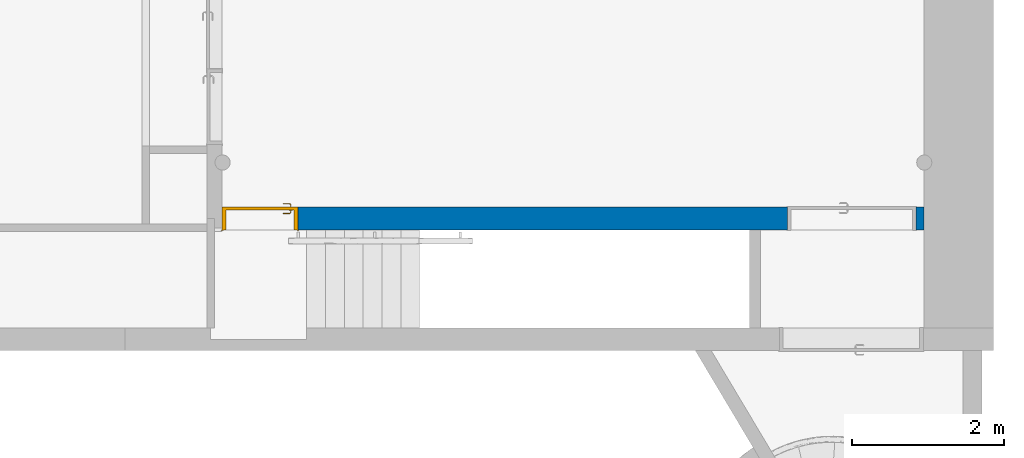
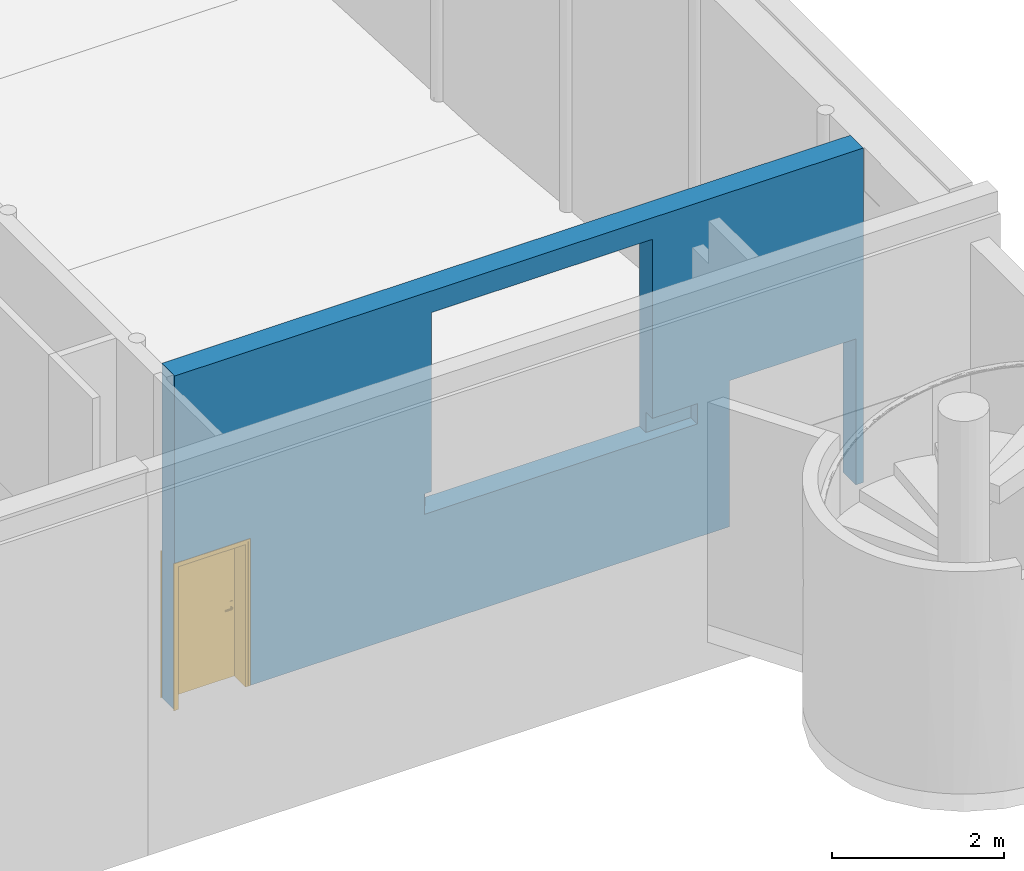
# One storey, part 23 of 39: 1 door, 1 wall, 2 openings.
"""IFC4 building model written with IfcOpenShell, lengths in metres."""

import ifcopenshell
import ifcopenshell.guid

model = None  # the IFC model being written
_history = None  # IfcOwnerHistory: only IFC2X3 demands one
_inside = {}  # id of a spatial element -> (the spatial element, [elements in it])
_under = {}  # id of a project, library or spatial element -> (it, [spatial elements below it])
_declared = {}  # id of a project -> (the project, [libraries it declares])
_typed = {}  # id of a type object -> (the type object, [elements of that type])
_made_of = {}  # id of a material, layer set ... -> (it, [elements and type objects made of it])


def new_model(schema):
    """Start an empty IFC model of exactly this schema.

    Asked for "IFC4X3", IfcOpenShell would pick the latest addendum, in which some entities
    have other attributes; the version numbers below select the first issue.
    IFC2X3 requires an IfcOwnerHistory on every rooted entity: one is made here for all.
    """
    global model, _history
    if schema == "IFC4X3":
        model = ifcopenshell.file(schema_version=(4, 3, 0, 0))
    else:
        model = ifcopenshell.file(schema=schema)
    _inside.clear()
    _under.clear()
    _declared.clear()
    _typed.clear()
    _made_of.clear()
    _history = None
    if model.schema == "IFC2X3":
        org = make("IfcOrganization", Name="unknown")
        user = make(
            "IfcPersonAndOrganization",
            ThePerson=make("IfcPerson", FamilyName="unknown"),
            TheOrganization=org,
        )
        app = make(
            "IfcApplication",
            ApplicationDeveloper=org,
            Version="unknown",
            ApplicationFullName="unknown",
            ApplicationIdentifier="unknown",
        )
        _history = make(
            "IfcOwnerHistory",
            OwningUser=user,
            OwningApplication=app,
            ChangeAction="ADDED",
            CreationDate=0,
        )
    return model


def make(cls, **values):
    """One entity of the class cls with the attributes given. An attribute that is None is left unset."""
    return model.create_entity(
        cls, **{name: value for name, value in values.items() if value is not None}
    )


def entity(cls, *values):
    """Any entity or typed value of the class cls, its attributes in the order of the schema. None: left unset."""
    e = model.create_entity(cls)
    for i, value in enumerate(values):
        if value is not None:
            e[i] = value
    return e


def rooted(cls, **values):
    """An entity with a GlobalId (a new one), such as an element, a storey or a relation."""
    return make(cls, GlobalId=ifcopenshell.guid.new(), OwnerHistory=_history, **values)


def si_unit(unit_type, name, prefix=None):
    """IfcSIUnit, for example si_unit("LENGTHUNIT", "METRE", prefix="MILLI")."""
    return make("IfcSIUnit", UnitType=unit_type, Prefix=prefix, Name=name)


def converted_unit(unit_type, name, factor, base, dimensions=None, offset=None):
    """IfcConversionBasedUnit, such as the inch: factor (a typed value) times the base unit."""
    return make(
        "IfcConversionBasedUnit"
        if offset is None
        else "IfcConversionBasedUnitWithOffset",
        ConversionOffset=offset,
        Dimensions=None
        if dimensions is None
        else entity("IfcDimensionalExponents", *dimensions),
        UnitType=unit_type,
        Name=name,
        ConversionFactor=make(
            "IfcMeasureWithUnit", ValueComponent=factor, UnitComponent=base
        ),
    )


def derived_unit(unit_type, elements):
    """IfcDerivedUnit: a product of units, each with its exponent."""
    return make(
        "IfcDerivedUnit",
        Elements=[
            make("IfcDerivedUnitElement", Unit=unit, Exponent=power)
            for unit, power in elements
        ],
        UnitType=unit_type,
    )


def assignment(units):
    """IfcUnitAssignment: the units of a project."""
    return None if units is None else make("IfcUnitAssignment", Units=units)


def point(xyz):
    """IfcCartesianPoint."""
    return None if xyz is None else make("IfcCartesianPoint", Coordinates=xyz)


def direction(xyz):
    """IfcDirection."""
    return None if xyz is None else make("IfcDirection", DirectionRatios=xyz)


def frame(location, z_axis=None, x_axis=None):
    """IfcAxis2Placement3D, a coordinate frame: its origin and axes. An axis left out is left unset."""
    return make(
        "IfcAxis2Placement3D",
        Location=point(location),
        Axis=direction(z_axis),
        RefDirection=direction(x_axis),
    )


def origin():
    """The frame at (0, 0, 0) with its axes left unset."""
    return frame((0.0, 0.0, 0.0))


def place(relative_to, where):
    """IfcLocalPlacement: puts the frame where relative to a parent placement (None: the world)."""
    return make(
        "IfcLocalPlacement", PlacementRelTo=relative_to, RelativePlacement=where
    )


def context(
    kind, dimensions, precision=None, world=None, true_north=None, identifier=None
):
    """IfcGeometricRepresentationContext, for example the 3D "Model" context."""
    return make(
        "IfcGeometricRepresentationContext",
        ContextIdentifier=identifier,
        ContextType=kind,
        CoordinateSpaceDimension=dimensions,
        Precision=precision,
        WorldCoordinateSystem=world,
        TrueNorth=true_north,
    )


def subcontext(parent, identifier, kind, view, scale=None):
    """IfcGeometricRepresentationSubContext, for example "Body" below "Model"."""
    return make(
        "IfcGeometricRepresentationSubContext",
        ContextIdentifier=identifier,
        ContextType=kind,
        ParentContext=parent,
        TargetScale=scale,
        TargetView=view,
    )


def project(units=None, contexts=None):
    """IfcProject with its units and contexts."""
    return rooted(
        "IfcProject",
        Name="project",
        RepresentationContexts=contexts,
        UnitsInContext=assignment(units),
    )


def spatial(cls, under=None, at=None, **own):
    """A site, building, storey or space (cls), placed at a placement, below another one or the project."""
    s = rooted(cls, ObjectPlacement=at, **own)
    if under is not None:
        _under.setdefault(under.id(), (under, []))[1].append(s)
    return s


def point_list(points):
    """IfcCartesianPointList2D or 3D."""
    cls = (
        "IfcCartesianPointList2D" if len(points[0]) == 2 else "IfcCartesianPointList3D"
    )
    return make(cls, CoordList=points)


def indexed_curve(points, segments=None, self_intersect=None):
    """IfcIndexedPolyCurve: lines and arcs through numbered points (the first is 1)."""
    return make(
        "IfcIndexedPolyCurve",
        Points=point_list(points),
        Segments=segments,
        SelfIntersect=self_intersect,
    )


def outline(outer, holes=None, kind="AREA"):
    """IfcArbitraryClosedProfileDef: a profile drawn as a closed curve; with holes, ...WithVoids."""
    if holes is None:
        return make("IfcArbitraryClosedProfileDef", ProfileType=kind, OuterCurve=outer)
    return make(
        "IfcArbitraryProfileDefWithVoids",
        ProfileType=kind,
        OuterCurve=outer,
        InnerCurves=holes,
    )


def extrude(swept, where, along, depth):
    """IfcExtrudedAreaSolid: the profile swept, set in the frame where, extruded along a direction by depth."""
    return make(
        "IfcExtrudedAreaSolid",
        SweptArea=swept,
        Position=where,
        ExtrudedDirection=direction(along),
        Depth=depth,
    )


def polygons(points, faces, closed=None, point_numbers=None):
    """IfcPolygonalFaceSet: a face is its outer loop, then its inner loops; points numbered from 1."""
    made = []
    for loops in faces:
        if len(loops) == 1:
            made.append(make("IfcIndexedPolygonalFace", CoordIndex=loops[0]))
        else:
            made.append(
                make(
                    "IfcIndexedPolygonalFaceWithVoids",
                    CoordIndex=loops[0],
                    InnerCoordIndices=loops[1:],
                )
            )
    return make(
        "IfcPolygonalFaceSet",
        Coordinates=point_list(points),
        Closed=closed,
        Faces=made,
        PnIndex=point_numbers,
    )


def shape(context_of_items, identifier, shape_type, items):
    """IfcShapeRepresentation: the items that make up one representation, for example the "Body"."""
    return make(
        "IfcShapeRepresentation",
        ContextOfItems=context_of_items,
        RepresentationIdentifier=identifier,
        RepresentationType=shape_type,
        Items=items,
    )


def source(mapping_origin, context_of_items, identifier, shape_type, items):
    """IfcRepresentationMap: a shape defined once, which mapped items show again and again."""
    return make(
        "IfcRepresentationMap",
        MappingOrigin=mapping_origin,
        MappedRepresentation=shape(context_of_items, identifier, shape_type, items),
    )


def transform(
    local_origin,
    x_axis=None,
    y_axis=None,
    z_axis=None,
    scale=None,
    scale2=None,
    scale3=None,
    uniform=True,
):
    """IfcCartesianTransformationOperator3D, or its non-uniform kind. x_axis, y_axis, z_axis: its Axis1, 2, 3."""
    if uniform:
        return make(
            "IfcCartesianTransformationOperator3D",
            Axis1=direction(x_axis),
            Axis2=direction(y_axis),
            LocalOrigin=point(local_origin),
            Scale=scale,
            Axis3=direction(z_axis),
        )
    return make(
        "IfcCartesianTransformationOperator3DnonUniform",
        Axis1=direction(x_axis),
        Axis2=direction(y_axis),
        LocalOrigin=point(local_origin),
        Scale=scale,
        Axis3=direction(z_axis),
        Scale2=scale2,
        Scale3=scale3,
    )


def mapped(mapping_source, mapping_target):
    """IfcMappedItem: shows the shape of a source again, moved by a transform."""
    return make(
        "IfcMappedItem", MappingSource=mapping_source, MappingTarget=mapping_target
    )


def material(Name=None, Category=None):
    """IfcMaterial."""
    return make("IfcMaterial", Name=Name, Category=Category)


def material_list(materials):
    """IfcMaterialList."""
    return make("IfcMaterialList", Materials=materials)


def layer(
    of_material, thickness, ventilated=None, Name=None, Category=None, Priority=None
):
    """IfcMaterialLayer: one layer of a wall or slab, of a material (None: an air gap)."""
    return make(
        "IfcMaterialLayer",
        Material=of_material,
        LayerThickness=thickness,
        IsVentilated=ventilated,
        Name=Name,
        Category=Category,
        Priority=Priority,
    )


def layer_set(layers, Name=None):
    """IfcMaterialLayerSet."""
    return make("IfcMaterialLayerSet", MaterialLayers=layers, LayerSetName=Name)


def constituent(of_material, Name=None, Category=None, fraction=None):
    """IfcMaterialConstituent: one of the materials an element consists of."""
    return make(
        "IfcMaterialConstituent",
        Name=Name,
        Material=of_material,
        Fraction=fraction,
        Category=Category,
    )


def constituent_set(constituents=None, Name=None):
    """IfcMaterialConstituentSet."""
    return make(
        "IfcMaterialConstituentSet", Name=Name, MaterialConstituents=constituents
    )


def made_of(thing, what):
    """Note that an element or type object is made of a material, layer set ...; save() writes the relation."""
    if what is not None:
        _made_of.setdefault(what.id(), (what, []))[1].append(thing)
    return thing


def type_object(cls, material=None, **own):
    """A type object (cls), such as IfcWallType, which elements share."""
    return made_of(rooted(cls, **own), material)


def type_shapes(of_type, sources):
    """Give a type object the sources (RepresentationMaps) that its elements show as mapped items."""
    of_type.RepresentationMaps = sources


def element(
    cls,
    number,
    at=None,
    inside=None,
    cuts=None,
    type_object=None,
    material=None,
    context=None,
    identifier="Body",
    shape_type=None,
    held_by="IfcProductDefinitionShape",
    body=None,
    shapes=None,
    **own,
):
    """One element of the class cls, such as IfcWall. Its Tag is "e" and its number.

    at: its placement. inside: the storey or other place that contains it. cuts: it is an
    opening in that element (IfcRelVoidsElement). A single representation is given by context,
    identifier, shape_type and body (its items); several are given by shapes. held_by: the class
    of the entity that holds the representations. save() writes the other relations.
    """
    e = rooted(cls, Tag="e%d" % number, ObjectPlacement=at, **own)
    if body is not None:
        shapes = [shape(context, identifier, shape_type, body)]
    if shapes is not None:
        e.Representation = make(held_by, Representations=shapes)
    if inside is not None:
        _inside.setdefault(inside.id(), (inside, []))[1].append(e)
    if cuts is not None:
        rooted(
            "IfcRelVoidsElement", RelatingBuildingElement=cuts, RelatedOpeningElement=e
        )
    if type_object is not None:
        _typed.setdefault(type_object.id(), (type_object, []))[1].append(e)
    return made_of(e, material)


def fill(opening, filler):
    """IfcRelFillsElement: the door or window that sits in an opening."""
    return rooted(
        "IfcRelFillsElement",
        RelatingOpeningElement=opening,
        RelatedBuildingElement=filler,
    )


def aggregate(whole, parts):
    """IfcRelAggregates: a whole, such as a stair, and the parts it consists of."""
    return rooted("IfcRelAggregates", RelatingObject=whole, RelatedObjects=parts)


def save(model, path):
    """Write the relations noted so far, then the file.

    IfcRelAggregates (storeys below a building ...), IfcRelContainedInSpatialStructure (elements
    in a storey), IfcRelDefinesByType, IfcRelAssociatesMaterial and IfcRelDeclares: one each for
    every whole, place, type object, material and project.
    """
    for whole, parts in _under.values():
        aggregate(whole, parts)
    for where, things in _inside.values():
        rooted(
            "IfcRelContainedInSpatialStructure",
            RelatedElements=things,
            RelatingStructure=where,
        )
    for kind, things in _typed.values():
        rooted("IfcRelDefinesByType", RelatedObjects=things, RelatingType=kind)
    for what, things in _made_of.values():
        rooted("IfcRelAssociatesMaterial", RelatedObjects=things, RelatingMaterial=what)
    for by, libraries in _declared.values():
        rooted("IfcRelDeclares", RelatingContext=by, RelatedDefinitions=libraries)
    model.write(path)


model = new_model("IFC4")

# Units and contexts
model_context = context("Model", 3, precision=1e-05, world=origin(), true_north=direction((6.12303176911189e-17, 1.0)))
body_context = subcontext(model_context, "Body", "Model", "MODEL_VIEW")
ifc_project = project(units=[si_unit("LENGTHUNIT", "METRE"), si_unit("AREAUNIT", "SQUARE_METRE"), si_unit("VOLUMEUNIT", "CUBIC_METRE"), converted_unit("PLANEANGLEUNIT", "DEGREE", entity("IfcRatioMeasure", 0.0174532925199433), si_unit("PLANEANGLEUNIT", "RADIAN"), dimensions=[0, 0, 0, 0, 0, 0, 0]), si_unit("MASSUNIT", "GRAM", prefix="KILO"), derived_unit("MASSDENSITYUNIT", [(si_unit("MASSUNIT", "GRAM", prefix="KILO"), 1), (si_unit("LENGTHUNIT", "METRE"), -3)]), derived_unit("MOMENTOFINERTIAUNIT", [(si_unit("LENGTHUNIT", "METRE"), 4)]), si_unit("TIMEUNIT", "SECOND"), si_unit("FREQUENCYUNIT", "HERTZ"), si_unit("THERMODYNAMICTEMPERATUREUNIT", "DEGREE_CELSIUS"), derived_unit("THERMALTRANSMITTANCEUNIT", [(si_unit("MASSUNIT", "GRAM", prefix="KILO"), 1), (si_unit("THERMODYNAMICTEMPERATUREUNIT", "KELVIN"), -1), (si_unit("TIMEUNIT", "SECOND"), -3)]), derived_unit("VOLUMETRICFLOWRATEUNIT", [(si_unit("LENGTHUNIT", "METRE"), 3), (si_unit("TIMEUNIT", "SECOND"), -1)]), si_unit("ELECTRICCURRENTUNIT", "AMPERE"), si_unit("ELECTRICVOLTAGEUNIT", "VOLT"), si_unit("POWERUNIT", "WATT"), si_unit("FORCEUNIT", "NEWTON", prefix="KILO"), si_unit("ILLUMINANCEUNIT", "LUX"), si_unit("LUMINOUSFLUXUNIT", "LUMEN"), si_unit("LUMINOUSINTENSITYUNIT", "CANDELA"), derived_unit("USERDEFINED", [(si_unit("MASSUNIT", "GRAM", prefix="KILO"), -1), (si_unit("LENGTHUNIT", "METRE"), -2), (si_unit("TIMEUNIT", "SECOND"), 3), (si_unit("LUMINOUSFLUXUNIT", "LUMEN"), 1)]), derived_unit("LINEARVELOCITYUNIT", [(si_unit("LENGTHUNIT", "METRE"), 1), (si_unit("TIMEUNIT", "SECOND"), -1)]), si_unit("PRESSUREUNIT", "PASCAL"), derived_unit("USERDEFINED", [(si_unit("LENGTHUNIT", "METRE"), -2), (si_unit("MASSUNIT", "GRAM", prefix="KILO"), 1), (si_unit("TIMEUNIT", "SECOND"), -2)]), derived_unit("LINEARFORCEUNIT", [(si_unit("MASSUNIT", "GRAM", prefix="KILO"), 1), (si_unit("LENGTHUNIT", "METRE"), 1), (si_unit("TIMEUNIT", "SECOND"), -2), (si_unit("LENGTHUNIT", "METRE"), -1)]), derived_unit("PLANARFORCEUNIT", [(si_unit("MASSUNIT", "GRAM", prefix="KILO"), 1), (si_unit("LENGTHUNIT", "METRE"), 1), (si_unit("TIMEUNIT", "SECOND"), -2), (si_unit("LENGTHUNIT", "METRE"), -2)])], contexts=[model_context])

# Site, building, storey
site_placement = place(None, origin())
site = spatial("IfcSite", under=ifc_project, at=site_placement, Name="Default", CompositionType="ELEMENT")
building_placement = place(site_placement, origin())
building = spatial("IfcBuilding", under=site, at=building_placement, Name="HOTEL CONSULAIRE BOULOGNE SUR MER", CompositionType="ELEMENT")
storey_placement = place(building_placement, frame((0.0, 0.0, -5.02343668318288)))
storey = spatial("IfcBuildingStorey", under=building, at=storey_placement, Name="SS3", CompositionType="ELEMENT", Elevation=-5.02343668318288)

# Wall, openings, door
ifc_material_1 = material(Name="Mur par défaut", Category="Divers")
ifc_layer = layer(ifc_material_1, 0.3, Name="Mur par défaut", Category="Divers")
ifc_layer_set = layer_set([ifc_layer], Name="Mur de base:Générique - Int. 300 mm")
wall_type = type_object("IfcWallType", Name="Mur de base:Générique - Int. 300 mm", PredefinedType="NOTDEFINED", material=ifc_layer_set)
wall_placement = place(storey_placement, frame((21.6200604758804, -27.8738231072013, 0.0), z_axis=(0.0, 0.0, 1.0), x_axis=(-1.0, 0.0, 0.0)))
wall = element("IfcWall", 1, at=wall_placement, inside=storey, type_object=wall_type, material=ifc_layer_set, Name="Mur de base:Générique - Int. 300 mm", ObjectType="Mur de base:Générique - Int. 300 mm", PredefinedType="NOTDEFINED", context=body_context, shape_type="Tessellation", body=[
    polygons([(9.26083365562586, 0.150000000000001, 0.0), (9.26083365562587, -0.150000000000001, 0.0), (9.25883365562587, -0.150000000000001, 0.0), (9.25883365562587, 0.150000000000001, 0.0), (8.25883365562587, 0.149999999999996, 0.0), (8.25883365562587, -0.150000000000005, 0.0), (1.802, -0.150000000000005, 0.0), (1.802, 0.149999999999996, 0.0), (2.15311398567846, 0.149999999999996, 0.0), (2.30311398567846, 0.149999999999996, 0.0), (5.90015488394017, -4.33146851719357e-15, 1.90122547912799), (5.81015488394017, -4.33146851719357e-15, 1.90122547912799), (5.81015488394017, 0.150000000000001, 1.90122547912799), (5.90015488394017, 0.150000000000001, 1.90122547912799), (9.26083365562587, -0.150000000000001, 4.75343668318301), (2.17502173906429e-15, -0.150000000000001, 4.75343668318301), (2.17502173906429e-15, -0.150000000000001, 0.0), (0.102000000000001, -0.150000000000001, 0.0), (0.102000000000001, -0.150000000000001, 2.075), (1.802, -0.150000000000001, 2.075), (8.25883365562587, -0.150000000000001, 2.075), (9.25883365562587, -0.150000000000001, 2.075), (2.83859108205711, -0.150000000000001, 4.44754046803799), (5.81015488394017, -0.150000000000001, 4.44754046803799), (5.81015488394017, -0.150000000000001, 1.90122547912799), (5.81015488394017, -0.150000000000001, 1.61122547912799), (2.83859108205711, -0.150000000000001, 1.61122547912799), (2.83859108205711, -0.150000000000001, 1.90122547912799), (5.58076170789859e-16, 0.150000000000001, 4.75343668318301), (9.26083365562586, 0.150000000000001, 4.75343668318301), (9.25883365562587, 0.150000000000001, 2.075), (8.25883365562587, 0.150000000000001, 2.075), (1.802, 0.150000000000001, 2.075), (0.102000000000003, 0.150000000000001, 2.075), (0.102000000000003, 0.150000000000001, 0.0), (5.58076170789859e-16, 0.150000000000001, 0.0), (5.58076170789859e-16, 0.150000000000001, 4.14343668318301), (5.81015488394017, 0.150000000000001, 4.44754046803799), (2.83859108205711, 0.150000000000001, 4.44754046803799), (2.83859108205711, 0.150000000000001, 1.90122547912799), (2.81670884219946, 0.150000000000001, 1.90122547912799), (2.72670884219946, 0.150000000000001, 1.90122547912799), (2.30311398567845, 0.150000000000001, 1.90122547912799), (2.233, 0.150000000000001, 1.90122547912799), (2.233, 0.150000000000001, 1.61122547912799), (2.30311398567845, 0.150000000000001, 1.61122547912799), (5.90015488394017, 0.150000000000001, 1.61122547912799), (5.81015488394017, 0.150000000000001, 4.14343668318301), (9.26083365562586, 0.122450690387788, 4.75343668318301), (5.81015488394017, -4.33146851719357e-15, 1.61122547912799), (5.90015488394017, -4.33146851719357e-15, 1.61122547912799), (2.233, 0.0, 1.61122547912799), (2.83859108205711, 0.0, 1.61122547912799), (2.83859108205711, 0.0, 1.90122547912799), (2.233, 0.0, 1.90122547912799)], [[[2, 3, 4, 1]], [[6, 7, 8, 9, 10, 5]], [[14, 11, 12, 13]], [[18, 17, 36, 35]], [[31, 22, 21, 32]], [[33, 20, 19, 34]], [[23, 39, 38, 24]], [[43, 42, 41, 40, 54, 55, 44]], [[19, 20, 7, 6, 21, 22, 3, 2, 15, 16, 17, 18], [23, 24, 25, 26, 27, 28]], [[4, 31, 32, 5, 10, 9, 8, 33, 34, 35, 36, 37, 29, 30, 1], [48, 38, 39, 40, 41, 42, 43, 44, 45, 46, 47, 14, 13]], [[11, 51, 50, 12]], [[55, 54, 53, 52]], [[16, 15, 49, 30, 29]], [[52, 53, 27, 26, 50, 51, 47, 46, 45]], [[49, 15, 2, 1, 30]], [[5, 32, 21, 6]], [[35, 34, 19, 18]], [[54, 40, 39, 23, 28, 27, 53]], [[44, 55, 52, 45]], [[37, 36, 17, 16, 29]], [[4, 3, 22, 31]], [[8, 7, 20, 33]], [[13, 12, 50, 26, 25, 24, 38, 48]], [[11, 14, 47, 51]]], closed=True),
])
opening_1_placement = place(wall_placement, frame((9.25883365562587, 0.149999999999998, 0.0)))
opening_1 = element("IfcOpeningElement", 2, at=opening_1_placement, cuts=wall, Name="Int. Simple:PP0.93x2.04:1", ObjectType="Opening", PredefinedType="OPENING", context=body_context, shape_type="SweptSolid", body=[
    extrude(outline(indexed_curve([(0.0, -1.76917613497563e-29), (2.075, -1.76917613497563e-29), (2.075, 1.0), (0.0, 1.0), (0.0, -1.76917613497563e-29)], self_intersect=False)), frame((0.0, 0.0, 0.0), z_axis=(0.0, -1.0, 0.0), x_axis=(0.0, 0.0, 1.0)), (0.0, 0.0, 1.0), 0.3),
])
opening_2_placement = place(wall_placement, frame((1.802, 0.149999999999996, 0.0)))
element("IfcOpeningElement", 3, at=opening_2_placement, cuts=wall, Name="Double (R):1.63m x 2.04m:1", ObjectType="Opening", PredefinedType="OPENING", context=body_context, shape_type="SweptSolid", body=[
    extrude(outline(indexed_curve([(0.0, 0.0), (2.075, 0.0), (2.075, 1.7), (0.0, 1.7), (0.0, 0.0)], self_intersect=False)), frame((0.0, 0.0, 0.0), z_axis=(0.0, -1.0, 0.0), x_axis=(0.0, 0.0, 1.0)), (0.0, 0.0, 1.0), 0.3),
])
ifc_material_2 = material(Name="Finition Peinture - Blanc satiné", Category="Peinture")
ifc_constituent_1 = constituent(ifc_material_2, Name="Finition Peinture - Blanc satiné", Category="Matériaux")
ifc_material_3 = material(Name="Bois - Panneau de porte", Category="Bois")
ifc_constituent_2 = constituent(ifc_material_3, Name="Bois - Panneau de porte", Category="Matériaux")
ifc_material_4 = material(Name="Bois - Cadre de porte", Category="Bois")
ifc_constituent_3 = constituent(ifc_material_4, Name="Bois - Cadre de porte", Category="Matériaux")
ifc_constituent_set = constituent_set(constituents=[ifc_constituent_1, ifc_constituent_2, ifc_constituent_3], Name="MaterialConstituentSet")
ifc_material_list = material_list([ifc_material_3, ifc_material_2, ifc_material_4, ifc_material_4])
door_type = type_object("IfcDoorType", Name="Int. Simple:PP0.93x2.04", OperationType="NOTDEFINED", PredefinedType="DOOR", material=ifc_material_list)
shared_shape = source(origin(), body_context, "Body", "Tessellation", [
    polygons([(0.075000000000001, -0.00500000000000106, 0.870000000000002), (0.0846472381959, -0.00500000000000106, 0.866003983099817), (0.0950000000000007, -0.00500000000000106, 0.86464101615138), (0.105352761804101, -0.00500000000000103, 0.866003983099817), (0.115, -0.00500000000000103, 0.870000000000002), (0.114999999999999, -0.00500000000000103, 1.08), (0.1053527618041, -0.00500000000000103, 1.08399601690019), (0.0949999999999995, -0.00500000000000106, 1.08535898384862), (0.0846472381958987, -0.00500000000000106, 1.08399601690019), (0.0749999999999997, -0.00500000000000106, 1.08), (0.0749999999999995, -1.08286712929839e-15, 0.870000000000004), (0.0749999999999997, -1.08286712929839e-15, 1.08), (0.0846472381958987, -1.06594733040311e-15, 1.08399601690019), (0.0949999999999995, -1.06594733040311e-15, 1.08535898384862), (0.1053527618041, -1.06594733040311e-15, 1.08399601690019), (0.114999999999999, -1.06594733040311e-15, 1.08), (0.115, -1.06594733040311e-15, 0.870000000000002), (0.105352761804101, -1.06594733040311e-15, 0.866003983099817), (0.0950000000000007, -1.06594733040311e-15, 0.86464101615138), (0.0846472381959, -1.06594733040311e-15, 0.866003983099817)], [[[4, 5, 6, 7, 8, 9, 10, 1, 2, 3]], [[15, 16, 17, 18, 19, 20, 11, 12, 13, 14]], [[11, 20, 2, 1]], [[2, 20, 19, 3]], [[19, 18, 4, 3]], [[18, 17, 5, 4]], [[6, 5, 17, 16]], [[16, 15, 7, 6]], [[7, 15, 14, 8]], [[14, 13, 9, 8]], [[13, 12, 10, 9]], [[1, 10, 12, 11]]], closed=True),
    polygons([(0.114999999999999, 0.0399999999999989, 1.08), (0.1053527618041, 0.0399999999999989, 1.08399601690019), (0.0949999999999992, 0.0399999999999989, 1.08535898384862), (0.0846472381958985, 0.0399999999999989, 1.08399601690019), (0.0749999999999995, 0.0399999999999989, 1.08), (0.075000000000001, 0.0399999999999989, 0.870000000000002), (0.0846472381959, 0.0399999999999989, 0.866003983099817), (0.0950000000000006, 0.0399999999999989, 0.86464101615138), (0.105352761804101, 0.0399999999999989, 0.866003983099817), (0.115, 0.0399999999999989, 0.870000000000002), (0.114999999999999, 0.0449999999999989, 1.08), (0.115, 0.0449999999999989, 0.870000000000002), (0.105352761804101, 0.0449999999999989, 0.866003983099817), (0.0950000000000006, 0.0449999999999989, 0.86464101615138), (0.0846472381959, 0.0449999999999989, 0.866003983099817), (0.0749999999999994, 0.0449999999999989, 0.870000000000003), (0.0749999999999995, 0.0449999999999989, 1.08), (0.0846472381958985, 0.0449999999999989, 1.08399601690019), (0.0949999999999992, 0.0449999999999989, 1.08535898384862), (0.1053527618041, 0.0449999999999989, 1.08399601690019)], [[[9, 10, 1, 2, 3, 4, 5, 6, 7, 8]], [[20, 11, 12, 13, 14, 15, 16, 17, 18, 19]], [[11, 20, 2, 1]], [[2, 20, 19, 3]], [[19, 18, 4, 3]], [[18, 17, 5, 4]], [[6, 5, 17, 16]], [[16, 15, 7, 6]], [[7, 15, 14, 8]], [[14, 13, 9, 8]], [[13, 12, 10, 9]], [[1, 10, 12, 11]]], closed=True),
    polygons([(0.0889999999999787, -0.00500000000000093, 1.007), (0.0929747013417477, -0.00500000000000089, 1.00778044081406), (0.097025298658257, -0.00500000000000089, 1.00778044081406), (0.101000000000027, -0.00500000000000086, 1.00699999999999), (0.101000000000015, -0.00500000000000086, 0.993000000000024), (0.0970252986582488, -0.00500000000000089, 0.992219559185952), (0.0929747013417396, -0.00500000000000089, 0.99221955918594), (0.0889999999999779, -0.00500000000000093, 0.992999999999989), (0.0889999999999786, -0.0326509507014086, 1.007), (0.0929747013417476, -0.0310045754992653, 1.00778044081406), (0.0970252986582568, -0.0293267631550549, 1.00778044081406), (0.101000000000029, -0.0276803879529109, 1.007), (0.101000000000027, -0.0276803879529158, 0.993000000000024), (0.0970252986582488, -0.0293267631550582, 0.992219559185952), (0.0929747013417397, -0.0310045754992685, 0.99221955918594), (0.0889999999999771, -0.0326509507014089, 0.992999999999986), (0.107377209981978, -0.0510281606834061, 1.007), (0.109023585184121, -0.0470534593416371, 1.00778044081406), (0.110701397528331, -0.0430028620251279, 1.00778044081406), (0.112347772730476, -0.0390281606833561, 1.007), (0.112347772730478, -0.0390281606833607, 0.993000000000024), (0.110701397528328, -0.0430028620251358, 0.992219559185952), (0.109023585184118, -0.047053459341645, 0.99221955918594), (0.107377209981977, -0.0510281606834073, 0.992999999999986), (0.195018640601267, -0.0510281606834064, 1.00699999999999), (0.195018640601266, -0.051028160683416, 0.992999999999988), (0.195018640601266, -0.0470534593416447, 0.99221955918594), (0.195018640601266, -0.0430028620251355, 0.992219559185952), (0.195018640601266, -0.039028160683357, 0.993000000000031), (0.195018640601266, -0.0390281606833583, 1.007), (0.195018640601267, -0.0430028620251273, 1.00778044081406), (0.195018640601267, -0.0470534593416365, 1.00778044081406), (0.147307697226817, -0.0510281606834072, 1.007), (0.152860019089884, -0.045028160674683, 1.0078786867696), (0.15368320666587, -0.039028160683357, 1.007), (0.147307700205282, -0.0510281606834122, 0.992999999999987), (0.152860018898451, -0.0450281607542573, 0.992121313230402), (0.153683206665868, -0.0390281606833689, 0.993000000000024)], [[[2, 3, 4, 5, 6, 7, 8, 1]], [[21, 20, 35, 30, 29, 38]], [[9, 10, 2, 1]], [[10, 18, 19, 11, 3, 2]], [[11, 12, 4, 3]], [[5, 4, 12, 13]], [[26, 27, 28, 29, 30, 31, 32, 25]], [[13, 14, 6, 5]], [[14, 22, 23, 15, 7, 6]], [[15, 16, 8, 7]], [[1, 8, 16, 9]], [[17, 18, 10, 9]], [[19, 20, 12, 11]], [[13, 12, 20, 21]], [[21, 22, 14, 13]], [[23, 24, 16, 15]], [[9, 16, 24, 17]], [[33, 32, 34]], [[25, 32, 33]], [[18, 17, 33]], [[34, 35, 19]], [[20, 19, 35]], [[35, 31, 30]], [[32, 31, 34]], [[31, 35, 34]], [[18, 33, 34]], [[18, 34, 19]], [[38, 28, 37]], [[36, 37, 27]], [[21, 38, 22]], [[38, 29, 28]], [[26, 36, 27]], [[24, 23, 36]], [[36, 23, 37]], [[23, 22, 37]], [[22, 38, 37]], [[27, 37, 28]], [[17, 24, 36, 26, 25, 33]]], closed=True),
    polygons([(0.10100000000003, 0.0449999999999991, 0.993000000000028), (0.101000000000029, 0.0449999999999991, 1.007), (0.0970252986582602, 0.0449999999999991, 1.00778044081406), (0.092974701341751, 0.0449999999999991, 1.00778044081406), (0.0889999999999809, 0.0449999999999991, 1.007), (0.0889999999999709, 0.0449999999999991, 0.992999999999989), (0.0929747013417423, 0.0449999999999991, 0.99221955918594), (0.0970252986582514, 0.0449999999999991, 0.992219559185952), (0.10100000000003, 0.067485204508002, 0.993000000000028), (0.10100000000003, 0.0674852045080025, 1.007), (0.0970252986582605, 0.0691315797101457, 1.00778044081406), (0.0929747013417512, 0.070809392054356, 1.00778044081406), (0.088999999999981, 0.0724557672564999, 1.007), (0.0889999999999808, 0.072455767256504, 0.992999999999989), (0.092974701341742, 0.0708093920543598, 0.99221955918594), (0.0970252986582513, 0.0691315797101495, 0.992219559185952), (0.112485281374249, 0.0789704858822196, 0.993000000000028), (0.112485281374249, 0.0789704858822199, 1.007), (0.110838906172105, 0.0829451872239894, 1.00778044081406), (0.109161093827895, 0.0869957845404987, 1.00778044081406), (0.107514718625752, 0.0909704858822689, 1.007), (0.107514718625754, 0.090970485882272, 0.992999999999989), (0.109161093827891, 0.0869957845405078, 0.99221955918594), (0.110838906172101, 0.0829451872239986, 0.992219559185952), (0.195045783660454, 0.0789704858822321, 0.993000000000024), (0.195045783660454, 0.0829451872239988, 0.992219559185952), (0.195045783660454, 0.086995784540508, 0.99221955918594), (0.195045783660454, 0.0909704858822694, 0.992999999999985), (0.195045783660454, 0.0909704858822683, 1.007), (0.195045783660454, 0.0869957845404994, 1.00778044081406), (0.195045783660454, 0.0829451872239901, 1.00778044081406), (0.195045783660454, 0.0789704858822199, 1.007), (0.147445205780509, 0.0909704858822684, 1.007), (0.152942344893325, 0.0849704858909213, 1.0078786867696), (0.153765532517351, 0.0789704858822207, 1.007), (0.147445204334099, 0.0909704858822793, 0.992999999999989), (0.152942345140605, 0.0849704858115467, 0.992121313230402), (0.153765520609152, 0.0789704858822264, 0.993000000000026)], [[[4, 5, 6, 7, 8, 1, 2, 3]], [[18, 17, 38, 25, 32, 35]], [[2, 1, 9, 10]], [[25, 26, 27, 28, 29, 30, 31, 32]], [[10, 11, 3, 2]], [[11, 19, 20, 12, 4, 3]], [[12, 13, 5, 4]], [[6, 5, 13, 14]], [[14, 15, 7, 6]], [[15, 23, 24, 16, 8, 7]], [[16, 9, 1, 8]], [[10, 9, 17, 18]], [[18, 19, 11, 10]], [[20, 21, 13, 12]], [[14, 13, 21, 22]], [[22, 23, 15, 14]], [[24, 17, 9, 16]], [[35, 31, 34]], [[33, 34, 30]], [[18, 35, 19]], [[35, 32, 31]], [[29, 33, 30]], [[21, 20, 33]], [[33, 20, 34]], [[20, 19, 34]], [[19, 35, 34]], [[30, 34, 31]], [[21, 33, 29, 28, 36, 22]], [[36, 27, 37]], [[28, 27, 36]], [[23, 22, 36]], [[37, 38, 24]], [[17, 24, 38]], [[38, 26, 25]], [[27, 26, 37]], [[26, 38, 37]], [[23, 36, 37]], [[23, 37, 24]]], closed=True),
    polygons([(0.0349999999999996, 0.04, 2.04), (0.965, 0.04, 2.04), (0.965, 0.04, 0.0), (0.0349999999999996, 0.04, 0.0), (0.0349999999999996, 3.38395977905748e-17, 2.04), (0.0349999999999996, 3.38395977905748e-17, 0.0), (0.965, 3.38395977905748e-17, 0.0), (0.965, 3.38395977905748e-17, 2.04)], [[[4, 1, 2, 3]], [[7, 8, 5, 6]], [[2, 1, 5, 8]], [[3, 2, 8, 7]], [[4, 3, 7, 6]], [[1, 4, 6, 5]]], closed=True),
    polygons([(-1.53631773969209e-14, 0.0, 0.0), (-1.53631773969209e-14, 0.300000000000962, 0.0), (0.0499999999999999, 0.300000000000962, 0.0), (0.0499999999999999, 0.0400000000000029, 0.0), (0.0349999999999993, 0.0400000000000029, 0.0), (0.0349999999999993, 0.0, 0.0), (-1.51601398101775e-14, 0.0, 2.07500000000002), (-1.51601398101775e-14, 0.300000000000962, 2.07500000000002), (1.00000000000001, 0.300000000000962, 2.07500000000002), (1.00000000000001, 0.300000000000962, 3.88816484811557e-25), (0.95, 0.300000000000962, 3.59657255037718e-24), (0.95, 0.300000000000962, 2.025), (0.05, 0.300000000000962, 2.025), (0.05, 0.0400000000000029, 2.025), (0.95, 0.0400000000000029, 2.025), (0.95, 0.0400000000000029, 2.24110802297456e-24), (0.965, 0.0400000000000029, -4.78103047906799e-25), (0.965, 0.0400000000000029, 2.04), (0.0349999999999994, 0.0400000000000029, 2.04), (0.0349999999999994, 0.0, 2.04), (0.965, 0.0, 2.04), (0.965, 0.0, -2.84752548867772e-24), (1.00000000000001, 0.0, -3.95490158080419e-25), (1.00000000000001, 0.0, 2.07500000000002)], [[[5, 6, 1, 2, 3, 4]], [[11, 10, 23, 22, 17, 16]], [[14, 13, 12, 15]], [[20, 19, 18, 21]], [[2, 1, 7, 8]], [[15, 12, 11, 16]], [[21, 18, 17, 22]], [[3, 2, 8, 9, 10, 11, 12, 13]], [[4, 3, 13, 14]], [[6, 5, 19, 20]], [[9, 24, 23, 10]], [[16, 17, 18, 19, 5, 4, 14, 15]], [[22, 23, 24, 7, 1, 6, 20, 21]], [[8, 7, 24, 9]]], closed=True),
    polygons([(0.0149999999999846, 0.300000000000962, 0.0), (-0.0150000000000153, 0.300000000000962, 0.0), (-0.0150000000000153, 0.305000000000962, 0.0), (0.0149999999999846, 0.305000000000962, 0.0), (0.0149999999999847, 0.300000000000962, 2.06000000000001), (0.98499999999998, 0.300000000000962, 2.06000000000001), (0.98499999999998, 0.300000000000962, -1.80158911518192e-24), (1.01499999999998, 0.300000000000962, -9.00794238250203e-25), (1.01499999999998, 0.300000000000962, 2.09000000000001), (-0.0150000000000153, 0.300000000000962, 2.09000000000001), (-0.0150000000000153, 0.305000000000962, 2.09000000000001), (1.01499999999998, 0.305000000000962, 2.09000000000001), (1.01499999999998, 0.305000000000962, -5.48159974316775e-24), (0.98499999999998, 0.305000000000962, -4.34281663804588e-24), (0.98499999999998, 0.305000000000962, 2.06000000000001), (0.0149999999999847, 0.305000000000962, 2.06000000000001)], [[[1, 2, 3, 4]], [[14, 13, 8, 7]], [[5, 16, 15, 6]], [[7, 8, 9, 10, 2, 1, 5, 6]], [[3, 2, 10, 11]], [[6, 15, 14, 7]], [[4, 3, 11, 12, 13, 14, 15, 16]], [[1, 4, 16, 5]], [[12, 9, 8, 13]], [[11, 10, 9, 12]]], closed=True),
    polygons([(0.0149999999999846, -0.00499999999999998, 0.0), (-0.0150000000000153, -0.00499999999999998, 0.0), (-0.0150000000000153, -3.38395977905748e-17, 0.0), (0.0149999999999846, -3.38395977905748e-17, 0.0), (0.98499999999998, -0.00499999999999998, 5.41433564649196e-16), (0.98499999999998, -3.38395977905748e-17, 5.41433564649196e-16), (1.01499999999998, -3.38395977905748e-17, 5.41433564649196e-16), (1.01499999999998, -0.00499999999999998, 5.41433564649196e-16), (0.0149999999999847, -0.00499999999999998, 2.06000000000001), (0.98499999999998, -0.00499999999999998, 2.06000000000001), (1.01499999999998, -0.00499999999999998, 2.09000000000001), (-0.0150000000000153, -0.00499999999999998, 2.09000000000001), (-0.0150000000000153, -3.38395977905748e-17, 2.09000000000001), (1.01499999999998, -3.38395977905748e-17, 2.09000000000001), (0.98499999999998, -3.38395977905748e-17, 2.06000000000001), (0.0149999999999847, -3.38395977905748e-17, 2.06000000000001)], [[[2, 3, 4, 1]], [[6, 7, 8, 5]], [[9, 16, 15, 10]], [[5, 8, 11, 12, 2, 1, 9, 10]], [[3, 2, 12, 13]], [[10, 15, 6, 5]], [[4, 3, 13, 14, 7, 6, 15, 16]], [[1, 4, 16, 9]], [[14, 11, 8, 7]], [[13, 12, 11, 14]]], closed=True),
])
type_shapes(door_type, [shared_shape])
door_placement = place(opening_1_placement, frame((-1.0, -0.30000000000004, 0.0)))
door = element("IfcDoor", 4, at=door_placement, inside=storey, type_object=door_type, material=ifc_constituent_set, Name="Int. Simple:PP0.93x2.04", ObjectType="Int. Simple:PP0.93x2.04", OperationType="NOTDEFINED", OverallHeight=2.075, OverallWidth=1.0, PredefinedType="DOOR", context=body_context, shape_type="MappedRepresentation", body=[
    mapped(shared_shape, transform((0.0, 0.0, 0.0), scale=1.0)),
])
fill(opening_1, door)

save(model, "model.ifc")
